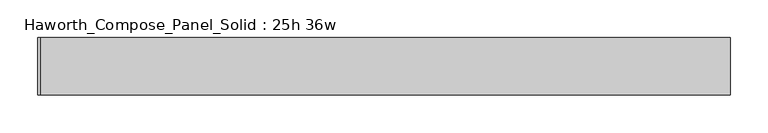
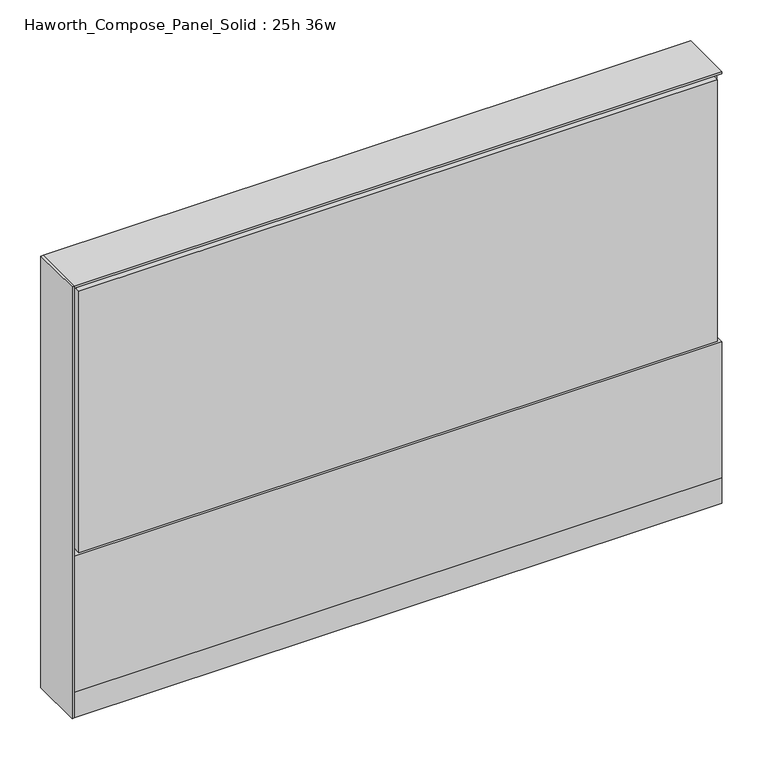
"""IFC4 building model written with IfcOpenShell, lengths in millimetres: furniture geometry, Haworth_Compose_Panel_Solid : 25h 36w."""

from ifc_helpers import new_model, si_unit, point, frame, frame_2d, origin, origin_with_axes, place, context, project, spatial, polyline, circle_curve, trimmed, segment, composite_curve, outline, extrude, source, transform, mapped, element, save


def haworth_compose_panel_solid_25h_36w_0cc98597(model_context):
    return source(origin(), model_context, "Body", "SweptSolid", [
        extrude(outline(composite_curve([segment(trimmed(circle_curve(frame_2d((-378.5597098, 0.0)), 12.7), [point((-391.2597098, 0.0))], [point((-365.8597098, 0.0))], False, "CARTESIAN"), True, "CONTINUOUS"), segment(trimmed(circle_curve(frame_2d((-378.5597098, 0.0)), 12.7), [point((-365.8597098, 0.0))], [point((-391.2597098, 0.0))], False, "CARTESIAN"), True, "CONTINUOUS")], self_intersect=False)), origin_with_axes(), (0.0, 0.0, 1.0), 12.7),
        extrude(outline(composite_curve([segment(trimmed(circle_curve(frame_2d((383.4402902, 0.0)), 12.7), [point((370.7402902, 0.0))], [point((396.1402902, 0.0))], False, "CARTESIAN"), True, "CONTINUOUS"), segment(trimmed(circle_curve(frame_2d((383.4402902, 0.0)), 12.7), [point((396.1402902, 0.0))], [point((370.7402902, 0.0))], False, "CARTESIAN"), True, "CONTINUOUS")], self_intersect=False)), origin_with_axes(), (0.0, 0.0, 1.0), 12.7),
        extrude(outline(polyline([(-457.9347098, -38.1), (-457.9347098, 38.1), (-454.7597098, 38.1), (-454.7597098, -38.1), (-457.9347098, -38.1)])), frame((0.0, 0.0, 12.7), z_axis=(0.0, 0.0, 1.0), x_axis=(1.0, 0.0, 0.0)), (0.0, 0.0, 1.0), 644.525),
        extrude(outline(polyline([(453.2902902, -38.1), (-448.4097098, -38.1), (-448.4097098, -25.4), (453.2902902, -25.4), (453.2902902, -38.1)])), frame((0.0, 0.0, 257.175), z_axis=(0.0, 0.0, 1.0), x_axis=(1.0, 0.0, 0.0)), (0.0, 0.0, 1.0), 390.525),
        extrude(outline(polyline([(459.6402902, -38.1), (-454.7597098, -38.1), (-454.7597098, -25.4), (459.6402902, -25.4), (459.6402902, -38.1)])), frame((0.0, 0.0, 50.8), z_axis=(0.0, 0.0, 1.0), x_axis=(1.0, 0.0, 0.0)), (0.0, 0.0, 1.0), 203.2),
        extrude(outline(polyline([(459.6402902, 38.1), (459.6402902, 25.4), (-454.7597098, 25.4), (-454.7597098, 38.1), (459.6402902, 38.1)])), frame((0.0, 0.0, 50.8), z_axis=(0.0, 0.0, 1.0), x_axis=(1.0, 0.0, 0.0)), (0.0, 0.0, 1.0), 203.2),
        extrude(outline(polyline([(453.2902902, 38.1), (453.2902902, 25.4), (-448.4097098, 25.4), (-448.4097098, 38.1), (453.2902902, 38.1)])), frame((0.0, 0.0, 257.175), z_axis=(0.0, 0.0, 1.0), x_axis=(1.0, 0.0, 0.0)), (0.0, 0.0, 1.0), 390.525),
        extrude(outline(polyline([(459.6402902, -25.4), (-454.7597098, -25.4), (-454.7597098, 25.4), (459.6402902, 25.4), (459.6402902, -25.4)])), frame((0.0, 0.0, 12.7), z_axis=(0.0, 0.0, 1.0), x_axis=(1.0, 0.0, 0.0)), (0.0, 0.0, 1.0), 641.35),
        extrude(outline(polyline([(-454.7597098, 38.1), (459.6402902, 38.1), (459.6402902, -38.1), (-454.7597098, -38.1), (-454.7597098, 38.1)])), frame((0.0, 0.0, 12.7), z_axis=(0.0, 0.0, 1.0), x_axis=(1.0, 0.0, 0.0)), (0.0, 0.0, 1.0), 38.1),
        extrude(outline(polyline([(-454.7597098, 38.1), (459.6402902, 38.1), (459.6402902, -38.1), (-454.7597098, -38.1), (-454.7597098, 38.1)])), frame((0.0, 0.0, 654.05), z_axis=(0.0, 0.0, 1.0), x_axis=(1.0, 0.0, 0.0)), (0.0, 0.0, 1.0), 3.175),
    ])


if __name__ == "__main__":
    model = new_model("IFC4")
    model_context = context("Model", 3, world=origin())
    ifc_project = project(units=[si_unit("LENGTHUNIT", "METRE", prefix="MILLI")], contexts=[model_context])
    site = spatial("IfcSite", under=ifc_project)
    building = spatial("IfcBuilding", under=site)
    placement = place(None, origin())
    haworth_compose_panel_solid_25h_36w_shape = haworth_compose_panel_solid_25h_36w_0cc98597(model_context)
    element("IfcFurniture", 1, ObjectType="Haworth_Compose_Panel_Solid : 25h 36w", at=placement, inside=building, context=model_context, shape_type="MappedRepresentation", body=[
        mapped(haworth_compose_panel_solid_25h_36w_shape, transform((0.0, 0.0, 0.0), x_axis=(1.0, 0.0, 0.0), y_axis=(0.0, 1.0, 0.0), z_axis=(0.0, 0.0, 1.0))),
    ])
    save(model, "model.ifc")
